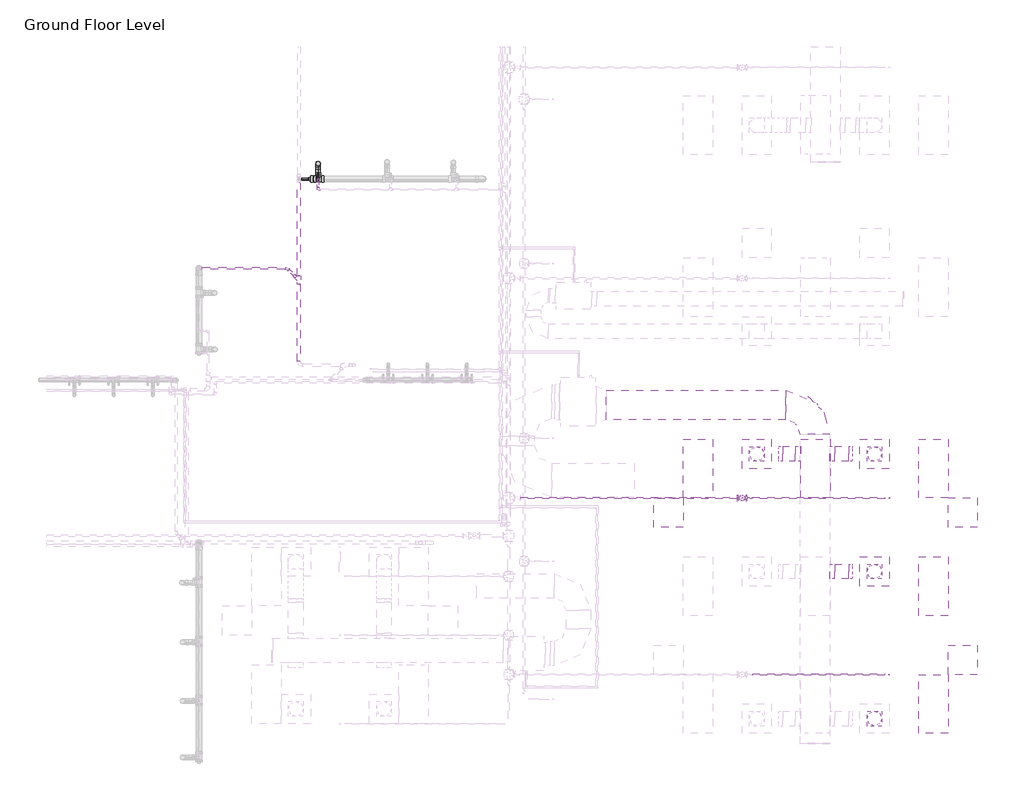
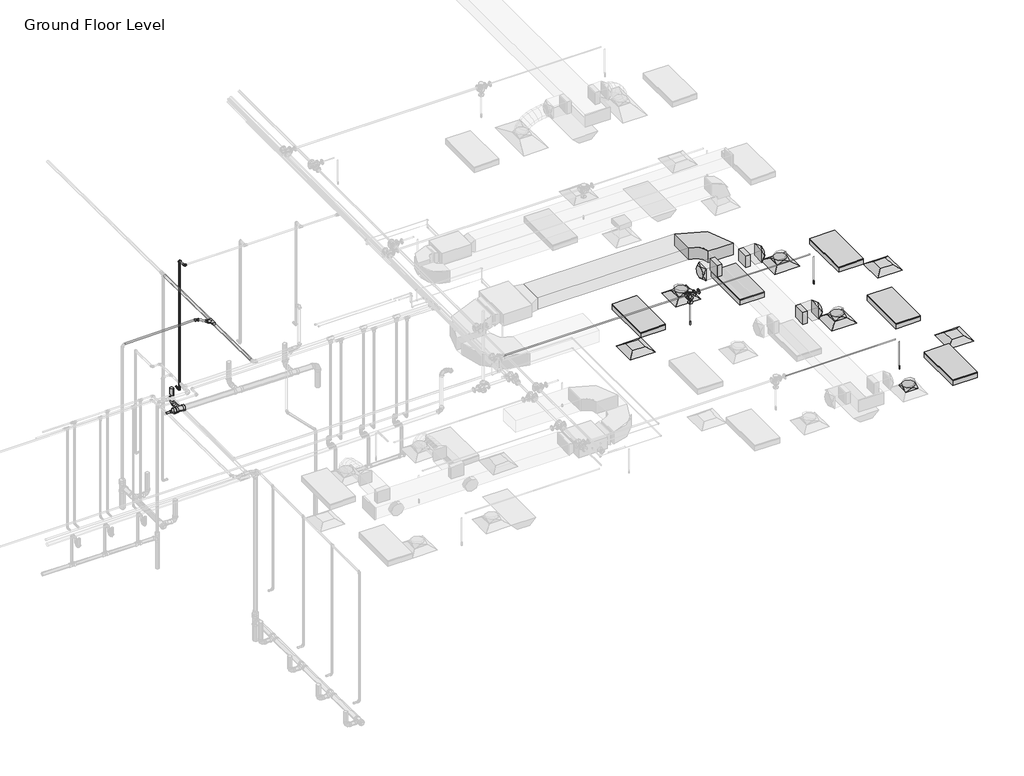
# One storey, part 19 of 74: 17 pipe segments, 12 pipe fittings, 11 duct fittings, 8 duct segments, 6 air terminals, 5 light fixtures, 3 fire suppression terminals.
"""IFC4 building model written with IfcOpenShell, lengths in millimetres."""

from ifc_helpers import new_model, si_unit, point, frame, frame_2d, origin, place, context, project, spatial, polyline, circle_curve, ellipse_curve, trimmed, segment, composite_curve, outline, extrude, transform, mapped, element, save
from ifc_brep_helpers import plane_surface, cylinder_surface, advanced_brep
from components import m_return_diffuser_600_x_600_face_300_x_300_connection_ff221211, m_rectangular_elbow_radius_1_w_c6ed0251, m_rectangular_takeoff_standard_cb0ccb98, m_rectangular_takeoff_standard_2be5eba1, m_rectangular_to_round_transition_angle_45_degree_641efff0, m_sprinkler_dry_pendent_hosted_15_mm_dry_pendent_9bda8e11, m_troffer_light_parabolic_rectangular1_0600x1200mm_4_lamp_86473d4a, m_bend_pvc_sch_40_dwv_standard_a4b99d37, m_bend_pvc_sch_40_dwv_standard_980e5ff7, m_reducer_flanged_cs_class_150_standard_ccf252ad, m_reducer_pvc_sch_40_dwv_standard_19331f3d, m_reducer_pvc_sch_40_dwv_standard_312d928c, m_tee_pvc_sch_40_standard_151c2b90, m_tee_reducing_sanitary_pvc_sch_40_dwv_standard_b49161a9, m_tee_round_base_flanged_cs_class_150_standard_7e5987a1, standard_517a5a8d, standard_c393d86d

model = new_model("IFC4")

# Units and contexts
model_context = context("Model", 3, world=origin())
ifc_project = project(units=[si_unit("LENGTHUNIT", "METRE", prefix="MILLI")], contexts=[model_context])

# Site, building, storey
site = spatial("IfcSite", under=ifc_project)
building = spatial("IfcBuilding", under=site)
storey = spatial("IfcBuildingStorey", under=building, Name="Ground Floor Level", Elevation=900.0)

# Air terminals
placement = place(None, origin())
m_return_diffuser_600_x_600_face_300_x_300_connection_shape = m_return_diffuser_600_x_600_face_300_x_300_connection_ff221211(model_context)
element("IfcAirTerminal", 1, ObjectType="M_Return Diffuser : 600 x 600 Face 300 x 300 Connection", at=placement, inside=storey, context=model_context, shape_type="MappedRepresentation", body=[
    mapped(m_return_diffuser_600_x_600_face_300_x_300_connection_shape, transform((8943.0482736, -35564.7846466, 3650.0), x_axis=(1.0, 0.0, 0.0), y_axis=(0.0, 1.0, 0.0), z_axis=(0.0, 0.0, 1.0))),
])
element("IfcAirTerminal", 2, ObjectType="M_Return Diffuser : 600 x 600 Face 300 x 300 Connection", at=placement, inside=storey, context=model_context, shape_type="MappedRepresentation", body=[
    mapped(m_return_diffuser_600_x_600_face_300_x_300_connection_shape, transform((14943.0482736, -38564.7846466, 3650.0), x_axis=(1.0, 0.0, 0.0), y_axis=(0.0, 1.0, 0.0), z_axis=(0.0, 0.0, 1.0))),
])
element("IfcAirTerminal", 3, ObjectType="M_Return Diffuser : 600 x 600 Face 300 x 300 Connection", at=placement, inside=storey, context=model_context, shape_type="MappedRepresentation", body=[
    mapped(m_return_diffuser_600_x_600_face_300_x_300_connection_shape, transform((14943.0482736, -35564.7846466, 3650.0), x_axis=(1.0, 0.0, 0.0), y_axis=(0.0, 1.0, 0.0), z_axis=(0.0, 0.0, 1.0))),
])
element("IfcAirTerminal", 4, ObjectType="M_Supply Diffuser : 600 x 600 Face 300 x 300 Connection", at=placement, inside=storey, context=model_context, shape_type="MappedRepresentation", body=[
    mapped(m_return_diffuser_600_x_600_face_300_x_300_connection_shape, transform((13142.7672395, -36764.7846466, 3650.0), x_axis=(1.0, 0.0, 0.0), y_axis=(0.0, 1.0, 0.0), z_axis=(0.0, 0.0, 1.0))),
])
element("IfcAirTerminal", 5, ObjectType="M_Supply Diffuser : 600 x 600 Face 300 x 300 Connection", at=placement, inside=storey, context=model_context, shape_type="MappedRepresentation", body=[
    mapped(m_return_diffuser_600_x_600_face_300_x_300_connection_shape, transform((10742.7672395, -34364.7846466, 3650.0), x_axis=(1.0, 0.0, 0.0), y_axis=(0.0, 1.0, 0.0), z_axis=(0.0, 0.0, 1.0))),
])
element("IfcAirTerminal", 6, ObjectType="M_Supply Diffuser : 600 x 600 Face 300 x 300 Connection", at=placement, inside=storey, context=model_context, shape_type="MappedRepresentation", body=[
    mapped(m_return_diffuser_600_x_600_face_300_x_300_connection_shape, transform((13142.7672395, -34364.7846466, 3650.0), x_axis=(1.0, 0.0, 0.0), y_axis=(0.0, 1.0, 0.0), z_axis=(0.0, 0.0, 1.0))),
])

# Duct fittings
m_rectangular_elbow_radius_1_w_shape = m_rectangular_elbow_radius_1_w_c6ed0251(model_context)
element("IfcDuctFitting", 7, ObjectType="M_Rectangular Elbow - Radius : 1 W", at=placement, inside=storey, context=model_context, shape_type="MappedRepresentation", body=[
    mapped(m_rectangular_elbow_radius_1_w_shape, transform((11933.8644074, -33364.7726336, 4099.9875), x_axis=(0.0, 1.0, 0.0), y_axis=(-0.9999999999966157, 0.0, 2.601673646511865e-06), z_axis=(2.601673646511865e-06, 0.0, 0.9999999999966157))),
])
m_rectangular_takeoff_standard_shape = m_rectangular_takeoff_standard_cb0ccb98(model_context)
element("IfcDuctFitting", 8, ObjectType="M_Rectangular Takeoff : Standard", at=placement, inside=storey, context=model_context, shape_type="MappedRepresentation", body=[
    mapped(m_rectangular_takeoff_standard_shape, transform((12233.8644074, -34364.7846466, 4099.9875), x_axis=(1.0, 0.0, 0.0), y_axis=(0.0, -1.0, 0.0), z_axis=(0.0, 0.0, -1.0))),
])
element("IfcDuctFitting", 9, ObjectType="M_Rectangular Takeoff : Standard", at=placement, inside=storey, context=model_context, shape_type="MappedRepresentation", body=[
    mapped(m_rectangular_takeoff_standard_shape, transform((12233.8644074, -36764.7846466, 4099.9875), x_axis=(1.0, 0.0, 0.0), y_axis=(0.0, -1.0, 0.0), z_axis=(0.0, 0.0, -1.0))),
])
m_rectangular_takeoff_standard_2_shape = m_rectangular_takeoff_standard_2be5eba1(model_context)
element("IfcDuctFitting", 10, ObjectType="M_Rectangular Takeoff : Standard", at=placement, inside=storey, context=model_context, shape_type="MappedRepresentation", body=[
    mapped(m_rectangular_takeoff_standard_2_shape, transform((11633.8644074, -34364.7846466, 4099.9875), x_axis=(-1.0, 0.0, 0.0), y_axis=(0.0, 1.0, 0.0), z_axis=(0.0, 0.0, -1.0))),
])
m_rectangular_to_round_transition_angle_45_degree_shape = m_rectangular_to_round_transition_angle_45_degree_641efff0(model_context)
element("IfcDuctFitting", 11, ObjectType="M_Rectangular to Round Transition - Angle : 45 Degree", at=placement, inside=storey, context=model_context, shape_type="MappedRepresentation", body=[
    mapped(m_rectangular_to_round_transition_angle_45_degree_shape, transform((10742.7672395, -34364.7846466, 3751.6), x_axis=(0.0, 0.0, 1.0), y_axis=(-1.0, 0.0, 0.0), z_axis=(0.0, -1.0, 0.0))),
])
element("IfcDuctFitting", 12, ObjectType="M_Rectangular to Round Transition - Angle : 45 Degree", at=placement, inside=storey, context=model_context, shape_type="MappedRepresentation", body=[
    mapped(m_rectangular_to_round_transition_angle_45_degree_shape, transform((11270.1156708, -34364.7846466, 4099.9875), x_axis=(-1.0, 0.0, 0.0), y_axis=(0.0, -1.0, 0.0), z_axis=(0.0, 0.0, 1.0))),
])
element("IfcDuctFitting", 13, ObjectType="M_Rectangular to Round Transition - Angle : 45 Degree", at=placement, inside=storey, context=model_context, shape_type="MappedRepresentation", body=[
    mapped(m_rectangular_to_round_transition_angle_45_degree_shape, transform((13142.7672395, -34364.7846466, 3751.6), x_axis=(0.0, 0.0, 1.0), y_axis=(-1.0, 0.0, 0.0), z_axis=(0.0, -1.0, 0.0))),
])
element("IfcDuctFitting", 14, ObjectType="M_Rectangular to Round Transition - Angle : 45 Degree", at=placement, inside=storey, context=model_context, shape_type="MappedRepresentation", body=[
    mapped(m_rectangular_to_round_transition_angle_45_degree_shape, transform((12615.4188082, -34364.7846466, 4099.9875), x_axis=(1.0, 0.0, 0.0), y_axis=(0.0, 1.0, 0.0), z_axis=(0.0, 0.0, 1.0))),
])
element("IfcDuctFitting", 15, ObjectType="M_Rectangular to Round Transition - Angle : 45 Degree", at=placement, inside=storey, context=model_context, shape_type="MappedRepresentation", body=[
    mapped(m_rectangular_to_round_transition_angle_45_degree_shape, transform((13142.7672395, -36764.7846466, 3751.6), x_axis=(0.0, 0.0, 1.0), y_axis=(-1.0, 0.0, 0.0), z_axis=(0.0, -1.0, 0.0))),
])
element("IfcDuctFitting", 16, ObjectType="M_Rectangular to Round Transition - Angle : 45 Degree", at=placement, inside=storey, context=model_context, shape_type="MappedRepresentation", body=[
    mapped(m_rectangular_to_round_transition_angle_45_degree_shape, transform((12615.4188082, -36764.7846466, 4099.9875), x_axis=(1.0, 0.0, 0.0), y_axis=(0.0, 1.0, 0.0), z_axis=(0.0, 0.0, 1.0))),
])
element("IfcDuctFitting", 17, ObjectType="M_Rectangular to Round Transition - Angle : 45 Degree", at=placement, inside=storey, context=model_context, shape_type="MappedRepresentation", body=[
    mapped(m_rectangular_to_round_transition_angle_45_degree_shape, transform((13142.7672395, -39764.7846466, 3751.6), x_axis=(0.0, 0.0, 1.0), y_axis=(-1.0, 0.0, 0.0), z_axis=(0.0, -1.0, 0.0))),
])

# Duct segments
element("IfcDuctSegment", 18, ObjectType="Flex - Round", at=placement, inside=storey, context=model_context, shape_type="AdvancedBrep", body=[
    advanced_brep(
    [(10892.7672395, -34364.7846466, 3826.6), (10742.7672395, -34514.7846466, 3826.6), (10592.7672395, -34364.7846466, 3826.6), (10742.7672395, -34214.7846466, 3826.6), (10892.7672395, -34364.7846466, 3829.8098344), (10742.7672395, -34214.7846466, 3864.5152119), (10592.7672395, -34364.7846466, 3899.2205895), (10742.7672395, -34514.7846466, 3864.5152119)],
    [
        (0, 1, circle_curve(frame((10742.7672395, -34364.7846466, 3826.6), z_axis=(0.0, 0.0, -1.0), x_axis=(1.0, 0.0, 0.0)), 150.0)),
        (1, 2, circle_curve(frame((10742.7672395, -34364.7846466, 3826.6), z_axis=(0.0, 0.0, -1.0), x_axis=(1.0, 0.0, 0.0)), 150.0)),
        (2, 3, circle_curve(frame((10742.7672395, -34364.7846466, 3826.6), z_axis=(0.0, 0.0, -1.0), x_axis=(1.0, 0.0, 0.0)), 150.0)),
        (3, 0, circle_curve(frame((10742.7672395, -34364.7846466, 3826.6), z_axis=(0.0, 0.0, -1.0), x_axis=(1.0, 0.0, 0.0)), 150.0)),
        (4, 5, ellipse_curve(frame((10742.7672395, -34364.7846466, 3864.5152119), z_axis=(0.22541442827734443, 0.0, 0.9742629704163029), x_axis=(0.9742629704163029, 0.0, -0.22541442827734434)), 153.9625384, 150.0)),
        (5, 6, ellipse_curve(frame((10742.7672395, -34364.7846466, 3864.5152119), z_axis=(0.22541442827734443, 0.0, 0.9742629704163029), x_axis=(0.9742629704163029, 0.0, -0.22541442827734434)), 153.9625384, 150.0)),
        (6, 7, ellipse_curve(frame((10742.7672395, -34364.7846466, 3864.5152119), z_axis=(0.22541442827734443, 0.0, 0.9742629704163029), x_axis=(0.9742629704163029, 0.0, -0.22541442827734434)), 153.9625384, 150.0)),
        (7, 4, ellipse_curve(frame((10742.7672395, -34364.7846466, 3864.5152119), z_axis=(0.22541442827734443, 0.0, 0.9742629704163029), x_axis=(0.9742629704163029, 0.0, -0.22541442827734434)), 153.9625384, 150.0)),
        (0, 4),
        (7, 1),
        (6, 2),
        (5, 3),
    ],
    [
        plane_surface(frame((10742.7672395, -34514.7846466, 3826.6), z_axis=(0.0, 0.0, -1.0), x_axis=(1.0, 0.0, 0.0))),
        plane_surface(frame((10742.7672395, -34514.7846466, 3864.5152119), z_axis=(0.22541442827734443, 0.0, 0.9742629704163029), x_axis=(0.9742629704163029, 0.0, -0.22541442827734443))),
        cylinder_surface(frame((10742.7672395, -34364.7846466, 3826.6), z_axis=(0.0, 0.0, -1.0), x_axis=(1.0, 0.0, 0.0)), 150.0),
    ],
    [
        (0, [[1, 2, 3, 4]]),
        (1, [[5, 6, 7, 8]]),
        (2, [[-1, 9, -8, 10]]),
        (2, [[-2, -10, -7, 11]]),
        (2, [[-3, -11, -6, 12]]),
        (2, [[-4, -12, -5, -9]]),
    ],
),
])
element("IfcDuctSegment", 19, ObjectType="Flex - Round", at=placement, inside=storey, context=model_context, shape_type="AdvancedBrep", body=[
    advanced_brep(
    [(13292.7672395, -34364.7846466, 3826.6), (13142.7672395, -34514.7846466, 3826.6), (12992.7672395, -34364.7846466, 3826.6), (13142.7672395, -34214.7846466, 3826.6), (13292.7672395, -34364.7846466, 3899.2205895), (13142.7672395, -34214.7846466, 3864.5152119), (12992.7672395, -34364.7846466, 3829.8098344), (13142.7672395, -34514.7846466, 3864.5152119)],
    [
        (0, 1, circle_curve(frame((13142.7672395, -34364.7846466, 3826.6), z_axis=(0.0, 0.0, -1.0), x_axis=(1.0, 0.0, 0.0)), 150.0)),
        (1, 2, circle_curve(frame((13142.7672395, -34364.7846466, 3826.6), z_axis=(0.0, 0.0, -1.0), x_axis=(1.0, 0.0, 0.0)), 150.0)),
        (2, 3, circle_curve(frame((13142.7672395, -34364.7846466, 3826.6), z_axis=(0.0, 0.0, -1.0), x_axis=(1.0, 0.0, 0.0)), 150.0)),
        (3, 0, circle_curve(frame((13142.7672395, -34364.7846466, 3826.6), z_axis=(0.0, 0.0, -1.0), x_axis=(1.0, 0.0, 0.0)), 150.0)),
        (4, 5, ellipse_curve(frame((13142.7672395, -34364.7846466, 3864.5152119), z_axis=(-0.22541442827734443, 0.0, 0.9742629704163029), x_axis=(-0.9742629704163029, 0.0, -0.22541442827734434)), 153.9625384, 150.0)),
        (5, 6, ellipse_curve(frame((13142.7672395, -34364.7846466, 3864.5152119), z_axis=(-0.22541442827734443, 0.0, 0.9742629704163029), x_axis=(-0.9742629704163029, 0.0, -0.22541442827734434)), 153.9625384, 150.0)),
        (6, 7, ellipse_curve(frame((13142.7672395, -34364.7846466, 3864.5152119), z_axis=(-0.22541442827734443, 0.0, 0.9742629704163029), x_axis=(-0.9742629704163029, 0.0, -0.22541442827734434)), 153.9625384, 150.0)),
        (7, 4, ellipse_curve(frame((13142.7672395, -34364.7846466, 3864.5152119), z_axis=(-0.22541442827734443, 0.0, 0.9742629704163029), x_axis=(-0.9742629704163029, 0.0, -0.22541442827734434)), 153.9625384, 150.0)),
        (0, 4),
        (7, 1),
        (6, 2),
        (5, 3),
    ],
    [
        plane_surface(frame((13142.7672395, -34514.7846466, 3826.6), z_axis=(0.0, 0.0, -1.0), x_axis=(1.0, 0.0, 0.0))),
        plane_surface(frame((13142.7672395, -34214.7846466, 3864.5152119), z_axis=(-0.22541442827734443, 0.0, 0.9742629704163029), x_axis=(-0.9742629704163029, 0.0, -0.22541442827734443))),
        cylinder_surface(frame((13142.7672395, -34364.7846466, 3826.6), z_axis=(0.0, 0.0, -1.0), x_axis=(1.0, 0.0, 0.0)), 150.0),
    ],
    [
        (0, [[1, 2, 3, 4]]),
        (1, [[5, 6, 7, 8]]),
        (2, [[-1, 9, -8, 10]]),
        (2, [[-2, -10, -7, 11]]),
        (2, [[-3, -11, -6, 12]]),
        (2, [[-4, -12, -5, -9]]),
    ],
),
])
element("IfcDuctSegment", 20, ObjectType="Flex - Round", at=placement, inside=storey, context=model_context, shape_type="AdvancedBrep", body=[
    advanced_brep(
    [(13292.7672395, -36764.7846466, 3826.6), (13142.7672395, -36914.7846466, 3826.6), (12992.7672395, -36764.7846466, 3826.6), (13142.7672395, -36614.7846466, 3826.6), (13292.7672395, -36764.7846466, 3899.2205895), (13142.7672395, -36614.7846466, 3864.5152119), (12992.7672395, -36764.7846466, 3829.8098344), (13142.7672395, -36914.7846466, 3864.5152119)],
    [
        (0, 1, circle_curve(frame((13142.7672395, -36764.7846466, 3826.6), z_axis=(0.0, 0.0, -1.0), x_axis=(1.0, 0.0, 0.0)), 150.0)),
        (1, 2, circle_curve(frame((13142.7672395, -36764.7846466, 3826.6), z_axis=(0.0, 0.0, -1.0), x_axis=(1.0, 0.0, 0.0)), 150.0)),
        (2, 3, circle_curve(frame((13142.7672395, -36764.7846466, 3826.6), z_axis=(0.0, 0.0, -1.0), x_axis=(1.0, 0.0, 0.0)), 150.0)),
        (3, 0, circle_curve(frame((13142.7672395, -36764.7846466, 3826.6), z_axis=(0.0, 0.0, -1.0), x_axis=(1.0, 0.0, 0.0)), 150.0)),
        (4, 5, ellipse_curve(frame((13142.7672395, -36764.7846466, 3864.5152119), z_axis=(-0.22541442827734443, 0.0, 0.9742629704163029), x_axis=(-0.9742629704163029, 0.0, -0.22541442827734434)), 153.9625384, 150.0)),
        (5, 6, ellipse_curve(frame((13142.7672395, -36764.7846466, 3864.5152119), z_axis=(-0.22541442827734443, 0.0, 0.9742629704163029), x_axis=(-0.9742629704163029, 0.0, -0.22541442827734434)), 153.9625384, 150.0)),
        (6, 7, ellipse_curve(frame((13142.7672395, -36764.7846466, 3864.5152119), z_axis=(-0.22541442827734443, 0.0, 0.9742629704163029), x_axis=(-0.9742629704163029, 0.0, -0.22541442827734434)), 153.9625384, 150.0)),
        (7, 4, ellipse_curve(frame((13142.7672395, -36764.7846466, 3864.5152119), z_axis=(-0.22541442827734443, 0.0, 0.9742629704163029), x_axis=(-0.9742629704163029, 0.0, -0.22541442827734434)), 153.9625384, 150.0)),
        (0, 4),
        (7, 1),
        (6, 2),
        (5, 3),
    ],
    [
        plane_surface(frame((13142.7672395, -36914.7846466, 3826.6), z_axis=(0.0, 0.0, -1.0), x_axis=(1.0, 0.0, 0.0))),
        plane_surface(frame((13142.7672395, -36614.7846466, 3864.5152119), z_axis=(-0.22541442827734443, 0.0, 0.9742629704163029), x_axis=(-0.9742629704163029, 0.0, -0.22541442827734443))),
        cylinder_surface(frame((13142.7672395, -36764.7846466, 3826.6), z_axis=(0.0, 0.0, -1.0), x_axis=(1.0, 0.0, 0.0)), 150.0),
    ],
    [
        (0, [[1, 2, 3, 4]]),
        (1, [[5, 6, 7, 8]]),
        (2, [[-1, 9, -8, 10]]),
        (2, [[-2, -10, -7, 11]]),
        (2, [[-3, -11, -6, 12]]),
        (2, [[-4, -12, -5, -9]]),
    ],
),
])
element("IfcDuctSegment", 21, ObjectType="Flex - Round", at=placement, inside=storey, context=model_context, shape_type="AdvancedBrep", body=[
    advanced_brep(
    [(13292.7672395, -39764.7846466, 3826.6), (13142.7672395, -39914.7846466, 3826.6), (12992.7672395, -39764.7846466, 3826.6), (13142.7672395, -39614.7846466, 3826.6), (13292.7672395, -39764.7846466, 3899.2205895), (13142.7672395, -39614.7846466, 3864.5152119), (12992.7672395, -39764.7846466, 3829.8098344), (13142.7672395, -39914.7846466, 3864.5152119)],
    [
        (0, 1, circle_curve(frame((13142.7672395, -39764.7846466, 3826.6), z_axis=(0.0, 0.0, -1.0), x_axis=(1.0, 0.0, 0.0)), 150.0)),
        (1, 2, circle_curve(frame((13142.7672395, -39764.7846466, 3826.6), z_axis=(0.0, 0.0, -1.0), x_axis=(1.0, 0.0, 0.0)), 150.0)),
        (2, 3, circle_curve(frame((13142.7672395, -39764.7846466, 3826.6), z_axis=(0.0, 0.0, -1.0), x_axis=(1.0, 0.0, 0.0)), 150.0)),
        (3, 0, circle_curve(frame((13142.7672395, -39764.7846466, 3826.6), z_axis=(0.0, 0.0, -1.0), x_axis=(1.0, 0.0, 0.0)), 150.0)),
        (4, 5, ellipse_curve(frame((13142.7672395, -39764.7846466, 3864.5152119), z_axis=(-0.22541442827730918, 0.0, 0.9742629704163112), x_axis=(-0.9742629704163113, 0.0, -0.2254144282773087)), 153.9625384, 150.0)),
        (5, 6, ellipse_curve(frame((13142.7672395, -39764.7846466, 3864.5152119), z_axis=(-0.22541442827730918, 0.0, 0.9742629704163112), x_axis=(-0.9742629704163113, 0.0, -0.2254144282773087)), 153.9625384, 150.0)),
        (6, 7, ellipse_curve(frame((13142.7672395, -39764.7846466, 3864.5152119), z_axis=(-0.22541442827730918, 0.0, 0.9742629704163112), x_axis=(-0.9742629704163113, 0.0, -0.2254144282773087)), 153.9625384, 150.0)),
        (7, 4, ellipse_curve(frame((13142.7672395, -39764.7846466, 3864.5152119), z_axis=(-0.22541442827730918, 0.0, 0.9742629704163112), x_axis=(-0.9742629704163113, 0.0, -0.2254144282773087)), 153.9625384, 150.0)),
        (0, 4),
        (7, 1),
        (6, 2),
        (5, 3),
    ],
    [
        plane_surface(frame((13142.7672395, -39914.7846466, 3826.6), z_axis=(0.0, 0.0, -1.0), x_axis=(1.0, 0.0, 0.0))),
        plane_surface(frame((13142.7672395, -39614.7846466, 3864.5152119), z_axis=(-0.22541442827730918, 0.0, 0.9742629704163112), x_axis=(-0.9742629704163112, 0.0, -0.22541442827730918))),
        cylinder_surface(frame((13142.7672395, -39764.7846466, 3826.6), z_axis=(0.0, 0.0, -1.0), x_axis=(1.0, 0.0, 0.0)), 150.0),
    ],
    [
        (0, [[1, 2, 3, 4]]),
        (1, [[5, 6, 7, 8]]),
        (2, [[-1, 9, -8, 10]]),
        (2, [[-2, -10, -7, 11]]),
        (2, [[-3, -11, -6, 12]]),
        (2, [[-4, -12, -5, -9]]),
    ],
),
])
element("IfcDuctSegment", 22, ObjectType="Radius Elbows / Taps", at=placement, inside=storey, context=model_context, shape_type="SweptSolid", body=[
    extrude(outline(polyline([(0.0, -600.0), (0.0, 0.0), (3664.5995898, 0.0), (3664.5995898, -600.0), (0.0, -600.0)])), frame((7669.2643699, -33064.7726336, 3950.0), z_axis=(2.9850453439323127e-06, 0.0, 0.9999999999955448), x_axis=(0.9999999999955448, 0.0, -2.9850453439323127e-06)), (0.0, 0.0, 1.0), 300.0),
])
element("IfcDuctSegment", 23, ObjectType="Radius Elbows / Taps", at=placement, inside=storey, context=model_context, shape_type="SweptSolid", body=[
    extrude(outline(polyline([(11532.2644074, -34214.7846466), (11532.2644074, -34514.7846466), (11270.1156708, -34514.7846466), (11270.1156708, -34214.7846466), (11532.2644074, -34214.7846466)])), frame((0.0, 0.0, 3949.9875), z_axis=(0.0, 0.0, 1.0), x_axis=(1.0, 0.0, 0.0)), (0.0, 0.0, 1.0), 300.0),
])
element("IfcDuctSegment", 24, ObjectType="Radius Elbows / Taps", at=placement, inside=storey, context=model_context, shape_type="SweptSolid", body=[
    extrude(outline(polyline([(12335.4644074, -34514.7846466), (12335.4644074, -34214.7846466), (12615.4188082, -34214.7846466), (12615.4188082, -34514.7846466), (12335.4644074, -34514.7846466)])), frame((0.0, 0.0, 3949.9875), z_axis=(0.0, 0.0, 1.0), x_axis=(1.0, 0.0, 0.0)), (0.0, 0.0, 1.0), 300.0),
])
element("IfcDuctSegment", 25, ObjectType="Radius Elbows / Taps", at=placement, inside=storey, context=model_context, shape_type="SweptSolid", body=[
    extrude(outline(polyline([(12335.4644074, -36914.7846466), (12335.4644074, -36614.7846466), (12615.4188082, -36614.7846466), (12615.4188082, -36914.7846466), (12335.4644074, -36914.7846466)])), frame((0.0, 0.0, 3949.9875), z_axis=(0.0, 0.0, 1.0), x_axis=(1.0, 0.0, 0.0)), (0.0, 0.0, 1.0), 300.0),
])

# Fire suppression terminals
m_sprinkler_dry_pendent_hosted_15_mm_dry_pendent_shape = m_sprinkler_dry_pendent_hosted_15_mm_dry_pendent_9bda8e11(model_context)
element("IfcFireSuppressionTerminal", 26, ObjectType="M_Sprinkler - Dry - Pendent - Hosted : 15 mm Dry Pendent", at=placement, inside=storey, context=model_context, shape_type="MappedRepresentation", body=[
    mapped(m_sprinkler_dry_pendent_hosted_15_mm_dry_pendent_shape, transform((10443.0482736, -35264.7846466, 3650.0), x_axis=(1.0, 0.0, 0.0), y_axis=(0.0, -1.0, 0.0), z_axis=(0.0, 0.0, -1.0))),
])
element("IfcFireSuppressionTerminal", 27, ObjectType="M_Sprinkler - Dry - Pendent - Hosted : 15 mm Dry Pendent", at=placement, inside=storey, context=model_context, shape_type="MappedRepresentation", body=[
    mapped(m_sprinkler_dry_pendent_hosted_15_mm_dry_pendent_shape, transform((13443.0482736, -38864.7846466, 3650.0), x_axis=(1.0, 0.0, 0.0), y_axis=(0.0, -1.0, 0.0), z_axis=(0.0, 0.0, -1.0))),
])
element("IfcFireSuppressionTerminal", 28, ObjectType="M_Sprinkler - Dry - Pendent - Hosted : 15 mm Dry Pendent", at=placement, inside=storey, context=model_context, shape_type="MappedRepresentation", body=[
    mapped(m_sprinkler_dry_pendent_hosted_15_mm_dry_pendent_shape, transform((13443.0482736, -35264.7846466, 3650.0), x_axis=(1.0, 0.0, 0.0), y_axis=(0.0, -1.0, 0.0), z_axis=(0.0, 0.0, -1.0))),
])

# Light fixtures
m_troffer_light_parabolic_rectangular1_0600x1200mm_4_lamp_shape = m_troffer_light_parabolic_rectangular1_0600x1200mm_4_lamp_86473d4a(model_context)
element("IfcLightFixture", 29, ObjectType="M_Troffer Light - Parabolic Rectangular1 : 0600x1200mm(4 Lamp) - 277V 2", at=placement, inside=storey, context=model_context, shape_type="MappedRepresentation", body=[
    mapped(m_troffer_light_parabolic_rectangular1_0600x1200mm_4_lamp_shape, transform((9483.5823415, -34646.0811451, 3650.0), x_axis=(0.0, 1.0, 0.0), y_axis=(-1.0, 0.0, 0.0), z_axis=(0.0, 0.0, 1.0))),
])
element("IfcLightFixture", 30, ObjectType="M_Troffer Light - Parabolic Rectangular1 : 0600x1200mm(4 Lamp) - 277V 2", at=placement, inside=storey, context=model_context, shape_type="MappedRepresentation", body=[
    mapped(m_troffer_light_parabolic_rectangular1_0600x1200mm_4_lamp_shape, transform((14283.5823415, -34646.0811451, 3650.0), x_axis=(0.0, 1.0, 0.0), y_axis=(-1.0, 0.0, 0.0), z_axis=(0.0, 0.0, 1.0))),
])
element("IfcLightFixture", 31, ObjectType="M_Troffer Light - Parabolic Rectangular1 : 0600x1200mm(4 Lamp) - 277V 2", at=placement, inside=storey, context=model_context, shape_type="MappedRepresentation", body=[
    mapped(m_troffer_light_parabolic_rectangular1_0600x1200mm_4_lamp_shape, transform((14283.5823415, -37046.0811451, 3650.0), x_axis=(0.0, 1.0, 0.0), y_axis=(-1.0, 0.0, 0.0), z_axis=(0.0, 0.0, 1.0))),
])
element("IfcLightFixture", 32, ObjectType="M_Troffer Light - Parabolic Rectangular1 : 0600x1200mm(4 Lamp) - 277V 2", at=placement, inside=storey, context=model_context, shape_type="MappedRepresentation", body=[
    mapped(m_troffer_light_parabolic_rectangular1_0600x1200mm_4_lamp_shape, transform((14283.5823415, -39446.0811451, 3650.0), x_axis=(0.0, 1.0, 0.0), y_axis=(-1.0, 0.0, 0.0), z_axis=(0.0, 0.0, 1.0))),
])
element("IfcLightFixture", 33, ObjectType="M_Troffer Light - Parabolic Rectangular1 : 0600x1200mm(4 Lamp) - 277V 2", at=placement, inside=storey, context=model_context, shape_type="MappedRepresentation", body=[
    mapped(m_troffer_light_parabolic_rectangular1_0600x1200mm_4_lamp_shape, transform((11883.5823415, -34646.0811451, 3650.0), x_axis=(0.0, 1.0, 0.0), y_axis=(-1.0, 0.0, 0.0), z_axis=(0.0, 0.0, 1.0))),
])

# Pipe fittings
m_bend_pvc_sch_40_dwv_standard_shape = m_bend_pvc_sch_40_dwv_standard_a4b99d37(model_context)
element("IfcPipeFitting", 34, ObjectType="M_Bend - PVC - Sch 40 - DWV : Standard", at=placement, inside=storey, context=model_context, shape_type="MappedRepresentation", body=[
    mapped(m_bend_pvc_sch_40_dwv_standard_shape, transform((1796.7972875, -28443.3871738, 482.0584463), x_axis=(0.0, 0.0, -1.0), y_axis=(0.0, -1.0, 0.0), z_axis=(-1.0, 0.0, 0.0))),
])
m_bend_pvc_sch_40_dwv_standard_2_shape = m_bend_pvc_sch_40_dwv_standard_980e5ff7(model_context)
element("IfcPipeFitting", 35, ObjectType="M_Bend - PVC - Sch 40 - DWV : Standard", at=placement, inside=storey, context=model_context, shape_type="MappedRepresentation", body=[
    mapped(m_bend_pvc_sch_40_dwv_standard_2_shape, transform((1167.6346326, -30581.7541446, 4102.0377498), x_axis=(-0.7070204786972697, 0.7069851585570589, -0.017147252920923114), y_axis=(-0.7071225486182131, -0.7070845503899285, 0.0030232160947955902), z_axis=(-0.009987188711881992, 0.014262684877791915, 0.9998484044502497))),
])
m_reducer_flanged_cs_class_150_standard_shape = m_reducer_flanged_cs_class_150_standard_ccf252ad(model_context)
element("IfcPipeFitting", 36, ObjectType="M_Reducer - Flanged - CS - Class 150 : Standard", at=placement, inside=storey, context=model_context, shape_type="MappedRepresentation", body=[
    mapped(m_reducer_flanged_cs_class_150_standard_shape, transform((10543.7568674, -35264.7846466, 4347.5), x_axis=(1.0, 0.0, 0.0), y_axis=(0.0, 0.0, 1.0), z_axis=(0.0, -1.0, 0.0))),
])
element("IfcPipeFitting", 37, ObjectType="M_Reducer - Flanged - CS - Class 150 : Standard", at=placement, inside=storey, context=model_context, shape_type="MappedRepresentation", body=[
    mapped(m_reducer_flanged_cs_class_150_standard_shape, transform((10443.0482736, -35264.7846466, 4246.7914063), x_axis=(0.0, 0.0, -1.0), y_axis=(-1.0, 0.0, 0.0), z_axis=(0.0, 1.0, 0.0))),
])
m_reducer_pvc_sch_40_dwv_standard_shape = m_reducer_pvc_sch_40_dwv_standard_19331f3d(model_context)
element("IfcPipeFitting", 38, ObjectType="M_Reducer - PVC - Sch 40 - DWV : Standard", at=placement, inside=storey, context=model_context, shape_type="MappedRepresentation", body=[
    mapped(m_reducer_pvc_sch_40_dwv_standard_shape, transform((1692.863236, -28761.5689421, 483.0977868), x_axis=(-0.9999500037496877, 0.0, 0.00999950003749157), y_axis=(0.0, -1.0000000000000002, 0.0), z_axis=(0.00999950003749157, 0.0, 0.9999500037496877))),
])
m_reducer_pvc_sch_40_dwv_standard_2_shape = m_reducer_pvc_sch_40_dwv_standard_312d928c(model_context)
element("IfcPipeFitting", 39, ObjectType="M_Reducer - PVC - Sch 40 - DWV : Standard", at=placement, inside=storey, context=model_context, shape_type="MappedRepresentation", body=[
    mapped(m_reducer_pvc_sch_40_dwv_standard_2_shape, transform((1345.2677086, -30759.3781518, 4106.4029379), x_axis=(-0.7070174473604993, 0.7069881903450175, -0.017147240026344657), y_axis=(-0.7070524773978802, -0.7071546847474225, -0.003007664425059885), z_axis=(-0.014252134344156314, 0.009997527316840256, 0.9998484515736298))),
])
m_tee_pvc_sch_40_standard_shape = m_tee_pvc_sch_40_standard_151c2b90(model_context)
element("IfcPipeFitting", 40, ObjectType="M_Tee - PVC - Sch 40 : Standard", at=placement, inside=storey, context=model_context, shape_type="MappedRepresentation", body=[
    mapped(m_tee_pvc_sch_40_standard_shape, transform((1404.8829692, -30818.9909454, 4107.8487823), x_axis=(0.0, -0.9999500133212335, 0.009998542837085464), y_axis=(0.9998984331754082, 0.0001425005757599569, 0.014251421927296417), z_axis=(-0.014252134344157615, 0.009997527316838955, 0.9998484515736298))),
])
m_tee_reducing_sanitary_pvc_sch_40_dwv_standard_shape = m_tee_reducing_sanitary_pvc_sch_40_dwv_standard_b49161a9(model_context)
element("IfcPipeFitting", 41, ObjectType="M_Tee Reducing Sanitary - PVC - Sch 40 - DWV : Standard", at=placement, inside=storey, context=model_context, shape_type="MappedRepresentation", body=[
    mapped(m_tee_reducing_sanitary_pvc_sch_40_dwv_standard_shape, transform((1796.7972875, -28761.5689421, 482.0584463), x_axis=(-0.9999500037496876, 0.0, 0.009999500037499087), y_axis=(0.0, -1.0000000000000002, 0.0), z_axis=(0.009999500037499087, 0.0, 0.9999500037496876))),
])
m_tee_round_base_flanged_cs_class_150_standard_shape = m_tee_round_base_flanged_cs_class_150_standard_7e5987a1(model_context)
element("IfcPipeFitting", 42, ObjectType="M_Tee Round Base - Flanged - CS - Class 150 : Standard", at=placement, inside=storey, context=model_context, shape_type="MappedRepresentation", body=[
    mapped(m_tee_round_base_flanged_cs_class_150_standard_shape, transform((10443.0482736, -35264.7846466, 4347.5), x_axis=(1.0, 0.0, 0.0), y_axis=(0.0, 0.0, 1.0), z_axis=(0.0, -1.0, 0.0))),
])
standard_shape = standard_517a5a8d(model_context)
element("IfcPipeFitting", 43, ObjectType="M_Elbow - CPVC - Sch 40 : Standard", at=placement, inside=storey, context=model_context, shape_type="MappedRepresentation", body=[
    mapped(standard_shape, transform((1796.7587914, -28974.7846466, 4300.0), x_axis=(0.0, -1.0, 0.0), y_axis=(1.0, 0.0, 0.0), z_axis=(0.0, 0.0, 1.0))),
])
element("IfcPipeFitting", 44, ObjectType="M_Elbow - CPVC - Sch 40 : Standard", at=placement, inside=storey, context=model_context, shape_type="MappedRepresentation", body=[
    mapped(standard_shape, transform((1796.7587914, -28769.5558494, 4300.0), x_axis=(0.0, 0.0, 1.0), y_axis=(0.0, -1.0, 0.0), z_axis=(1.0, 0.0, 0.0))),
])
standard_2_shape = standard_c393d86d(model_context)
element("IfcPipeFitting", 45, ObjectType="M_Elbow - CPVC - Sch 40 : Standard", at=placement, inside=storey, context=model_context, shape_type="MappedRepresentation", body=[
    mapped(standard_2_shape, transform((1796.7587914, -28769.5558494, 983.5), x_axis=(0.0, -0.9999999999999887, 1.506625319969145e-07), y_axis=(0.0, 1.506625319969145e-07, 0.9999999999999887), z_axis=(-1.0, 0.0, 0.0))),
])

# Pipe segments
element("IfcPipeSegment", 46, ObjectType="CPVC", at=placement, inside=storey, context=model_context, shape_type="SweptSolid", body=[
    extrude(outline(composite_curve([segment(trimmed(circle_curve(frame_2d((983.4999789, 1796.7587914)), 16.7005), [point((983.4999789, 1780.0582914))], [point((966.7994789, 1796.7587914))], False, "CARTESIAN"), True, "CONTINUOUS"), segment(trimmed(circle_curve(frame_2d((983.4999789, 1796.7587914)), 16.7005), [point((966.7994789, 1796.7587914))], [point((983.4999789, 1813.4592914))], False, "CARTESIAN"), True, "CONTINUOUS"), segment(trimmed(circle_curve(frame_2d((983.4999789, 1796.7587914)), 16.7005), [point((983.4999789, 1813.4592914))], [point((1000.2004789, 1796.7587914))], False, "CARTESIAN"), True, "CONTINUOUS"), segment(trimmed(circle_curve(frame_2d((983.4999789, 1796.7587914)), 16.7005), [point((1000.2004789, 1796.7587914))], [point((983.4999789, 1780.0582914))], False, "CARTESIAN"), True, "CONTINUOUS")], self_intersect=False)), frame((0.0, -28726.2933025, 0.0), z_axis=(0.0, 1.0, 0.0), x_axis=(0.0, 0.0, 1.0)), (0.0, 0.0, 1.0), 96.7374532),
])
element("IfcPipeSegment", 47, ObjectType="CPVC", at=placement, inside=storey, context=model_context, shape_type="SweptSolid", body=[
    extrude(outline(composite_curve([segment(trimmed(circle_curve(frame_2d((4300.0, 1796.7587914)), 16.7005), [point((4300.0, 1813.4592914))], [point((4316.7005, 1796.7587914))], False, "CARTESIAN"), True, "CONTINUOUS"), segment(trimmed(circle_curve(frame_2d((4300.0, 1796.7587914)), 16.7005), [point((4316.7005, 1796.7587914))], [point((4300.0, 1780.0582914))], False, "CARTESIAN"), True, "CONTINUOUS"), segment(trimmed(circle_curve(frame_2d((4300.0, 1796.7587914)), 16.7005), [point((4300.0, 1780.0582914))], [point((4283.2995, 1796.7587914))], False, "CARTESIAN"), True, "CONTINUOUS"), segment(trimmed(circle_curve(frame_2d((4300.0, 1796.7587914)), 16.7005), [point((4283.2995, 1796.7587914))], [point((4300.0, 1813.4592914))], False, "CARTESIAN"), True, "CONTINUOUS")], self_intersect=False)), frame((0.0, -28931.5220966, 0.0), z_axis=(0.0, 1.0, 0.0), x_axis=(0.0, 0.0, 1.0)), (0.0, 0.0, 1.0), 118.7036973),
])
element("IfcPipeSegment", 48, ObjectType="CPVC", at=placement, inside=storey, context=model_context, shape_type="SweptSolid", body=[
    extrude(outline(composite_curve([segment(trimmed(circle_curve(frame_2d((1796.7587914, -28769.5558494)), 16.7005), [point((1780.0582914, -28769.5558494))], [point((1796.7587914, -28752.8553494))], False, "CARTESIAN"), True, "CONTINUOUS"), segment(trimmed(circle_curve(frame_2d((1796.7587914, -28769.5558494)), 16.7005), [point((1796.7587914, -28752.8553494))], [point((1813.4592914, -28769.5558494))], False, "CARTESIAN"), True, "CONTINUOUS"), segment(trimmed(circle_curve(frame_2d((1796.7587914, -28769.5558494)), 16.7005), [point((1813.4592914, -28769.5558494))], [point((1796.7587914, -28786.2563494))], False, "CARTESIAN"), True, "CONTINUOUS"), segment(trimmed(circle_curve(frame_2d((1796.7587914, -28769.5558494)), 16.7005), [point((1796.7587914, -28786.2563494))], [point((1780.0582914, -28769.5558494))], False, "CARTESIAN"), True, "CONTINUOUS")], self_intersect=False)), frame((0.0, 0.0, 1026.7625468), z_axis=(0.0, 0.0, 1.0), x_axis=(1.0, 0.0, 0.0)), (0.0, 0.0, 1.0), 3229.9749032),
])
element("IfcPipeSegment", 49, ObjectType="PVC - DWV", at=placement, inside=storey, context=model_context, shape_type="SweptSolid", body=[
    extrude(outline(composite_curve([segment(trimmed(circle_curve(frame_2d((0.0, -44.45)), 44.45), [point((-44.45, -44.45))], [point((0.0, 0.0))], False, "CARTESIAN"), True, "CONTINUOUS"), segment(trimmed(circle_curve(frame_2d((0.0, -44.45)), 44.45), [point((0.0, 0.0))], [point((44.45, -44.45))], False, "CARTESIAN"), True, "CONTINUOUS"), segment(trimmed(circle_curve(frame_2d((0.0, -44.45)), 44.45), [point((44.45, -44.45))], [point((0.0, -88.9))], False, "CARTESIAN"), True, "CONTINUOUS"), segment(trimmed(circle_curve(frame_2d((0.0, -44.45)), 44.45), [point((0.0, -88.9))], [point((-44.45, -44.45))], False, "CARTESIAN"), True, "CONTINUOUS")], self_intersect=False)), frame((1796.7972875, -28487.8371738, 597.9586463), z_axis=(-1.9335461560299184e-05, 0.0, 0.99999999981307), x_axis=(-0.99999999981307, 0.0, -1.9335461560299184e-05)), (0.0, 0.0, 1.0), 232.7097303),
])
element("IfcPipeSegment", 50, ObjectType="PVC - DWV", at=placement, inside=storey, context=model_context, shape_type="SweptSolid", body=[
    extrude(outline(composite_curve([segment(trimmed(circle_curve(frame_2d((482.0584463, 1796.7972875)), 44.45), [point((482.0584463, 1752.3472875))], [point((437.6084463, 1796.7972875))], False, "CARTESIAN"), True, "CONTINUOUS"), segment(trimmed(circle_curve(frame_2d((482.0584463, 1796.7972875)), 44.45), [point((437.6084463, 1796.7972875))], [point((482.0584463, 1841.2472875))], False, "CARTESIAN"), True, "CONTINUOUS"), segment(trimmed(circle_curve(frame_2d((482.0584463, 1796.7972875)), 44.45), [point((482.0584463, 1841.2472875))], [point((526.5084463, 1796.7972875))], False, "CARTESIAN"), True, "CONTINUOUS"), segment(trimmed(circle_curve(frame_2d((482.0584463, 1796.7972875)), 44.45), [point((526.5084463, 1796.7972875))], [point((482.0584463, 1752.3472875))], False, "CARTESIAN"), True, "CONTINUOUS")], self_intersect=False)), frame((0.0, -28632.9687421, 0.0), z_axis=(0.0, 1.0, 0.0), x_axis=(0.0, 0.0, 1.0)), (0.0, 0.0, 1.0), 73.6813683),
])
element("IfcPipeSegment", 51, ObjectType="PVC - DWV", at=placement, inside=storey, context=model_context, shape_type="SweptSolid", body=[
    extrude(outline(composite_curve([segment(trimmed(circle_curve(frame_2d((0.0, 30.1624999)), 30.1625), [point((-30.1625, 30.1624999))], [point((0.0, 60.3249999))], False, "CARTESIAN"), True, "CONTINUOUS"), segment(trimmed(circle_curve(frame_2d((0.0, 30.1624999)), 30.1625), [point((0.0, 60.3249999))], [point((30.1625, 30.1624999))], False, "CARTESIAN"), True, "CONTINUOUS"), segment(trimmed(circle_curve(frame_2d((0.0, 30.1624999)), 30.1625), [point((30.1625, 30.1624999))], [point((0.0, 0.0))], False, "CARTESIAN"), True, "CONTINUOUS"), segment(trimmed(circle_curve(frame_2d((0.0, 30.1624999)), 30.1625), [point((0.0, 0.0))], [point((-30.1625, 30.1624999))], False, "CARTESIAN"), True, "CONTINUOUS")], self_intersect=False)), frame((1404.8829692, -30903.6076742, 4078.5308608), z_axis=(0.0, -0.9999500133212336, 0.009998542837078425), x_axis=(1.0, 0.0, 0.0)), (0.0, 0.0, 1.0), 1573.2710833),
])
element("IfcPipeSegment", 52, ObjectType="PVC - DWV", at=placement, inside=storey, context=model_context, shape_type="SweptSolid", body=[
    extrude(outline(composite_curve([segment(trimmed(circle_curve(frame_2d((0.0, 57.15)), 57.15), [point((0.0, 114.3))], [point((57.15, 57.15))], False, "CARTESIAN"), True, "CONTINUOUS"), segment(trimmed(circle_curve(frame_2d((0.0, 57.15)), 57.15), [point((57.15, 57.15))], [point((0.0, 0.0))], False, "CARTESIAN"), True, "CONTINUOUS"), segment(trimmed(circle_curve(frame_2d((0.0, 57.15)), 57.15), [point((0.0, 0.0))], [point((-57.15, 57.15))], False, "CARTESIAN"), True, "CONTINUOUS"), segment(trimmed(circle_curve(frame_2d((0.0, 57.15)), 57.15), [point((-57.15, 57.15))], [point((0.0, 114.3))], False, "CARTESIAN"), True, "CONTINUOUS")], self_intersect=False)), frame((1707.9017322, -28818.7189421, 482.9474019), z_axis=(-0.9999500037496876, 0.0, 0.009999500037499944), x_axis=(0.009999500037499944, 0.0, 0.9999500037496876)), (0.0, 0.0, 1.0), 15.0392481),
])
element("IfcPipeSegment", 53, ObjectType="PVC - DWV", at=placement, inside=storey, context=model_context, shape_type="SweptSolid", body=[
    extrude(outline(composite_curve([segment(trimmed(circle_curve(frame_2d((0.0, 21.082)), 21.082), [point((0.0, 42.164))], [point((21.0819999, 21.082))], False, "CARTESIAN"), True, "CONTINUOUS"), segment(trimmed(circle_curve(frame_2d((0.0, 21.082)), 21.082), [point((21.0819999, 21.082))], [point((0.0, 0.0))], False, "CARTESIAN"), True, "CONTINUOUS"), segment(trimmed(circle_curve(frame_2d((0.0, 21.082)), 21.082), [point((0.0, 0.0))], [point((-21.082, 21.082))], False, "CARTESIAN"), True, "CONTINUOUS"), segment(trimmed(circle_curve(frame_2d((0.0, 21.082)), 21.082), [point((-21.082, 21.082))], [point((0.0, 42.164))], False, "CARTESIAN"), True, "CONTINUOUS")], self_intersect=False)), frame((1593.2121247, -28782.6509421, 484.094298), z_axis=(-0.999950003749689, 0.0, 0.009999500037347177), x_axis=(0.009999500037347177, 0.0, 0.999950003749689)), (0.0, 0.0, 1.0), 131.204571),
])
element("IfcPipeSegment", 54, ObjectType="PVC - DWV", at=placement, inside=storey, context=model_context, shape_type="SweptSolid", body=[
    extrude(outline(composite_curve([segment(trimmed(circle_curve(frame_2d((0.0, 21.082)), 21.082), [point((0.0, 0.0))], [point((-21.082, 21.082))], False, "CARTESIAN"), True, "CONTINUOUS"), segment(trimmed(circle_curve(frame_2d((0.0, 21.082)), 21.082), [point((-21.082, 21.082))], [point((0.0, 42.164))], False, "CARTESIAN"), True, "CONTINUOUS"), segment(trimmed(circle_curve(frame_2d((0.0, 21.082)), 21.082), [point((0.0, 42.164))], [point((21.082, 21.082))], False, "CARTESIAN"), True, "CONTINUOUS"), segment(trimmed(circle_curve(frame_2d((0.0, 21.082)), 21.082), [point((21.082, 21.082))], [point((0.0, 0.0))], False, "CARTESIAN"), True, "CONTINUOUS")], self_intersect=False)), frame((-576.3892193, -30602.8361446, 4084.6172136), z_axis=(0.9999501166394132, 0.0, 0.009988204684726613), x_axis=(0.009988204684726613, 0.0, -0.9999501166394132)), (0.0, 0.0, 1.0), 1701.261054),
])
element("IfcPipeSegment", 55, ObjectType="PVC - DWV", at=placement, inside=storey, context=model_context, shape_type="SweptSolid", body=[
    extrude(outline(composite_curve([segment(trimmed(circle_curve(frame_2d((0.0, 21.082)), 21.082), [point((-21.078901, 20.7205367))], [point((-0.3614634, 42.160901))], False, "CARTESIAN"), True, "CONTINUOUS"), segment(trimmed(circle_curve(frame_2d((0.0, 21.082)), 21.082), [point((-0.3614634, 42.160901))], [point((21.0789011, 21.4434633))], False, "CARTESIAN"), True, "CONTINUOUS"), segment(trimmed(circle_curve(frame_2d((0.0, 21.082)), 21.082), [point((21.0789011, 21.4434633))], [point((0.3614633, 0.0030989))], False, "CARTESIAN"), True, "CONTINUOUS"), segment(trimmed(circle_curve(frame_2d((0.0, 21.082)), 21.082), [point((0.3614633, 0.0030989))], [point((-21.078901, 20.7205367))], False, "CARTESIAN"), True, "CONTINUOUS")], self_intersect=False)), frame((1197.9303187, -30612.5594908, 4081.6967043), z_axis=(0.7070204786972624, -0.7069851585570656, 0.0171472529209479), x_axis=(0.7071930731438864, 0.7068126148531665, -0.017143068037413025)), (0.0, 0.0, 1.0), 156.2367165),
])
element("IfcPipeSegment", 56, ObjectType="PVC - DWV", at=placement, inside=storey, context=model_context, shape_type="SweptSolid", body=[
    extrude(outline(composite_curve([segment(trimmed(circle_curve(frame_2d((0.0, 30.1625)), 30.1625), [point((-30.1625, 30.1625))], [point((0.0, 60.325))], False, "CARTESIAN"), True, "CONTINUOUS"), segment(trimmed(circle_curve(frame_2d((0.0, 30.1625)), 30.1625), [point((0.0, 60.325))], [point((30.1625, 30.1625))], False, "CARTESIAN"), True, "CONTINUOUS"), segment(trimmed(circle_curve(frame_2d((0.0, 30.1625)), 30.1625), [point((30.1625, 30.1625))], [point((0.0, 0.0))], False, "CARTESIAN"), True, "CONTINUOUS"), segment(trimmed(circle_curve(frame_2d((0.0, 30.1625)), 30.1625), [point((0.0, 0.0))], [point((-30.1625, 30.1625))], False, "CARTESIAN"), True, "CONTINUOUS")], self_intersect=False)), frame((1404.8829692, -28823.4403477, 4057.7311789), z_axis=(0.0, -0.9999500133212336, 0.009998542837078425), x_axis=(1.0, 0.0, 0.0)), (0.0, 0.0, 1.0), 1911.6325871),
])
element("IfcPipeSegment", 57, ObjectType="Steel flanged", at=placement, inside=storey, context=model_context, shape_type="SweptSolid", body=[
    extrude(outline(composite_curve([segment(trimmed(circle_curve(frame_2d((13443.0482736, -38864.7846466)), 10.668), [point((13432.3802736, -38864.7846466))], [point((13443.0482736, -38854.1166466))], False, "CARTESIAN"), True, "CONTINUOUS"), segment(trimmed(circle_curve(frame_2d((13443.0482736, -38864.7846466)), 10.668), [point((13443.0482736, -38854.1166466))], [point((13453.7162736, -38864.7846466))], False, "CARTESIAN"), True, "CONTINUOUS"), segment(trimmed(circle_curve(frame_2d((13443.0482736, -38864.7846466)), 10.668), [point((13453.7162736, -38864.7846466))], [point((13443.0482736, -38875.4526466))], False, "CARTESIAN"), True, "CONTINUOUS"), segment(trimmed(circle_curve(frame_2d((13443.0482736, -38864.7846466)), 10.668), [point((13443.0482736, -38875.4526466))], [point((13432.3802736, -38864.7846466))], False, "CARTESIAN"), True, "CONTINUOUS")], self_intersect=False)), frame((0.0, 0.0, 3650.0), z_axis=(0.0, 0.0, 1.0), x_axis=(1.0, 0.0, 0.0)), (0.0, 0.0, 1.0), 604.4914062),
])
element("IfcPipeSegment", 58, ObjectType="Steel flanged", at=placement, inside=storey, context=model_context, shape_type="SweptSolid", body=[
    extrude(outline(composite_curve([segment(trimmed(circle_curve(frame_2d((13443.0482736, -35264.7846466)), 10.668), [point((13432.3802736, -35264.7846466))], [point((13443.0482736, -35254.1166466))], False, "CARTESIAN"), True, "CONTINUOUS"), segment(trimmed(circle_curve(frame_2d((13443.0482736, -35264.7846466)), 10.668), [point((13443.0482736, -35254.1166466))], [point((13453.7162736, -35264.7846466))], False, "CARTESIAN"), True, "CONTINUOUS"), segment(trimmed(circle_curve(frame_2d((13443.0482736, -35264.7846466)), 10.668), [point((13453.7162736, -35264.7846466))], [point((13443.0482736, -35275.4526466))], False, "CARTESIAN"), True, "CONTINUOUS"), segment(trimmed(circle_curve(frame_2d((13443.0482736, -35264.7846466)), 10.668), [point((13443.0482736, -35275.4526466))], [point((13432.3802736, -35264.7846466))], False, "CARTESIAN"), True, "CONTINUOUS")], self_intersect=False)), frame((0.0, 0.0, 3650.0), z_axis=(0.0, 0.0, 1.0), x_axis=(1.0, 0.0, 0.0)), (0.0, 0.0, 1.0), 604.4914062),
])
element("IfcPipeSegment", 59, ObjectType="Steel flanged", at=placement, inside=storey, context=model_context, shape_type="SweptSolid", body=[
    extrude(outline(composite_curve([segment(trimmed(circle_curve(frame_2d((-38864.7846466, 4347.5)), 10.668), [point((-38854.1166466, 4347.5))], [point((-38864.7846466, 4336.832))], False, "CARTESIAN"), True, "CONTINUOUS"), segment(trimmed(circle_curve(frame_2d((-38864.7846466, 4347.5)), 10.668), [point((-38864.7846466, 4336.832))], [point((-38875.4526466, 4347.5))], False, "CARTESIAN"), True, "CONTINUOUS"), segment(trimmed(circle_curve(frame_2d((-38864.7846466, 4347.5)), 10.668), [point((-38875.4526466, 4347.5))], [point((-38864.7846466, 4358.168))], False, "CARTESIAN"), True, "CONTINUOUS"), segment(trimmed(circle_curve(frame_2d((-38864.7846466, 4347.5)), 10.668), [point((-38864.7846466, 4358.168))], [point((-38854.1166466, 4347.5))], False, "CARTESIAN"), True, "CONTINUOUS")], self_intersect=False)), frame((10657.7568674, 0.0, 0.0), z_axis=(1.0, 0.0, 0.0), x_axis=(0.0, 1.0, 0.0)), (0.0, 0.0, 1.0), 2692.2828125),
])
element("IfcPipeSegment", 60, ObjectType="Steel flanged", at=placement, inside=storey, context=model_context, shape_type="SweptSolid", body=[
    extrude(outline(composite_curve([segment(trimmed(circle_curve(frame_2d((10443.0482736, -35264.7846466)), 10.668), [point((10432.3802736, -35264.7846466))], [point((10443.0482736, -35254.1166466))], False, "CARTESIAN"), True, "CONTINUOUS"), segment(trimmed(circle_curve(frame_2d((10443.0482736, -35264.7846466)), 10.668), [point((10443.0482736, -35254.1166466))], [point((10453.7162736, -35264.7846466))], False, "CARTESIAN"), True, "CONTINUOUS"), segment(trimmed(circle_curve(frame_2d((10443.0482736, -35264.7846466)), 10.668), [point((10453.7162736, -35264.7846466))], [point((10443.0482736, -35275.4526466))], False, "CARTESIAN"), True, "CONTINUOUS"), segment(trimmed(circle_curve(frame_2d((10443.0482736, -35264.7846466)), 10.668), [point((10443.0482736, -35275.4526466))], [point((10432.3802736, -35264.7846466))], False, "CARTESIAN"), True, "CONTINUOUS")], self_intersect=False)), frame((0.0, 0.0, 3650.0), z_axis=(0.0, 0.0, 1.0), x_axis=(1.0, 0.0, 0.0)), (0.0, 0.0, 1.0), 482.7914062),
])
element("IfcPipeSegment", 61, ObjectType="Steel flanged", at=placement, inside=storey, context=model_context, shape_type="SweptSolid", body=[
    extrude(outline(composite_curve([segment(trimmed(circle_curve(frame_2d((-35264.7846466, 4347.5)), 16.7005), [point((-35248.0841466, 4347.5))], [point((-35264.7846466, 4330.7995))], False, "CARTESIAN"), True, "CONTINUOUS"), segment(trimmed(circle_curve(frame_2d((-35264.7846466, 4347.5)), 16.7005), [point((-35264.7846466, 4330.7995))], [point((-35281.4851466, 4347.5))], False, "CARTESIAN"), True, "CONTINUOUS"), segment(trimmed(circle_curve(frame_2d((-35264.7846466, 4347.5)), 16.7005), [point((-35281.4851466, 4347.5))], [point((-35264.7846466, 4364.2005))], False, "CARTESIAN"), True, "CONTINUOUS"), segment(trimmed(circle_curve(frame_2d((-35264.7846466, 4347.5)), 16.7005), [point((-35264.7846466, 4364.2005))], [point((-35248.0841466, 4347.5))], False, "CARTESIAN"), True, "CONTINUOUS")], self_intersect=False)), frame((5925.6174894, 0.0, 0.0), z_axis=(1.0, 0.0, 0.0), x_axis=(0.0, 1.0, 0.0)), (0.0, 0.0, 1.0), 4416.7221905),
])
element("IfcPipeSegment", 62, ObjectType="Steel flanged", at=placement, inside=storey, context=model_context, shape_type="SweptSolid", body=[
    extrude(outline(composite_curve([segment(trimmed(circle_curve(frame_2d((-35264.7846466, 4347.5)), 10.668), [point((-35254.1166466, 4347.5))], [point((-35264.7846466, 4336.832))], False, "CARTESIAN"), True, "CONTINUOUS"), segment(trimmed(circle_curve(frame_2d((-35264.7846466, 4347.5)), 10.668), [point((-35264.7846466, 4336.832))], [point((-35275.4526466, 4347.5))], False, "CARTESIAN"), True, "CONTINUOUS"), segment(trimmed(circle_curve(frame_2d((-35264.7846466, 4347.5)), 10.668), [point((-35275.4526466, 4347.5))], [point((-35264.7846466, 4358.168))], False, "CARTESIAN"), True, "CONTINUOUS"), segment(trimmed(circle_curve(frame_2d((-35264.7846466, 4347.5)), 10.668), [point((-35264.7846466, 4358.168))], [point((-35254.1166466, 4347.5))], False, "CARTESIAN"), True, "CONTINUOUS")], self_intersect=False)), frame((10657.7568674, 0.0, 0.0), z_axis=(1.0, 0.0, 0.0), x_axis=(0.0, 1.0, 0.0)), (0.0, 0.0, 1.0), 2692.2828125),
])

save(model, "model.ifc")
